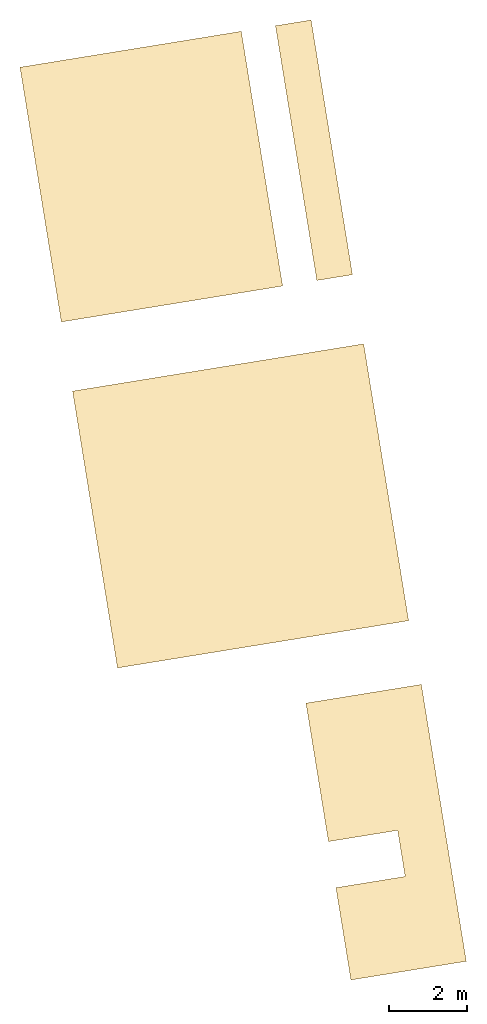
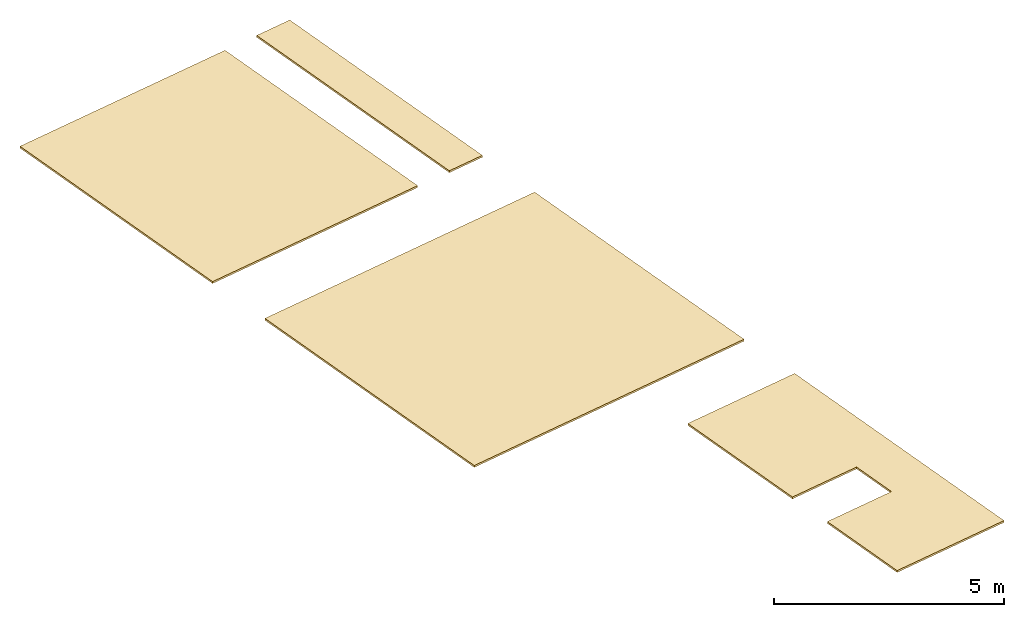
# One storey: 3 coverings.
"""IFC2X3 building model written with IfcOpenShell, lengths in millimetres."""

from ifc_helpers import new_model, entity, si_unit, converted_unit, derived_unit, direction, frame, origin, origin_with_axes, place, context, subcontext, project, spatial, polyline, outline, extrude, faceted_brep, material, layer, layer_set, layer_usage, type_object, element, save


model = new_model("IFC2X3")

# Units and contexts
plan_context = context("Plan", 3, precision=1e-05, world=origin_with_axes())
model_context = context("Model", 3, precision=0.01, world=origin(), true_north=direction((6.12323399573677e-17, 1.0)))
body_context = subcontext(model_context, "Body", "Model", "MODEL_VIEW")
ifc_project = project(units=[converted_unit("PLANEANGLEUNIT", "DEGREE", entity("IfcPositiveLengthMeasure", 0.0174532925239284), si_unit("PLANEANGLEUNIT", "RADIAN"), dimensions=[0, 0, 0, 0, 0, 0, 0]), si_unit("AREAUNIT", "SQUARE_METRE"), si_unit("LENGTHUNIT", "METRE", prefix="MILLI"), si_unit("MASSUNIT", "GRAM", prefix="KILO"), si_unit("POWERUNIT", "WATT"), si_unit("PRESSUREUNIT", "PASCAL", prefix="KILO"), si_unit("FORCEUNIT", "NEWTON", prefix="KILO"), si_unit("ELECTRICVOLTAGEUNIT", "VOLT"), si_unit("ELECTRICCURRENTUNIT", "AMPERE"), si_unit("THERMODYNAMICTEMPERATUREUNIT", "DEGREE_CELSIUS"), si_unit("TIMEUNIT", "SECOND"), si_unit("VOLUMEUNIT", "CUBIC_METRE"), derived_unit("LINEARVELOCITYUNIT", [(si_unit("LENGTHUNIT", "METRE"), 1), (si_unit("TIMEUNIT", "SECOND"), -1)]), derived_unit("VOLUMETRICFLOWRATEUNIT", [(si_unit("VOLUMEUNIT", "CUBIC_METRE"), 1), (si_unit("TIMEUNIT", "SECOND"), -1)]), derived_unit("THERMALTRANSMITTANCEUNIT", [(si_unit("POWERUNIT", "WATT"), 1), (si_unit("THERMODYNAMICTEMPERATUREUNIT", "KELVIN"), -1), (si_unit("AREAUNIT", "SQUARE_METRE"), -1)]), derived_unit("SOUNDPRESSUREUNIT", [(si_unit("PRESSUREUNIT", "PASCAL"), 1)])], contexts=[model_context, plan_context])

# Site, building, storey
site_placement = place(None, frame((-0.00071070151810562, 0.00438415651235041, 0.0), z_axis=(0.0, 0.0, 1.0), x_axis=(-0.160236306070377, 0.987078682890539, 0.0)))
site = spatial("IfcSite", under=ifc_project, at=site_placement, Name="Default", CompositionType="ELEMENT")
building_placement = place(site_placement, origin_with_axes())
building = spatial("IfcBuilding", under=site, at=building_placement, Name="TOO", CompositionType="ELEMENT")
storey_placement = place(building_placement, frame((0.0, 0.0, 55630.0), z_axis=(0.0, 0.0, 1.0), x_axis=(1.0, 0.0, 0.0)))
storey = spatial("IfcBuildingStorey", under=building, at=storey_placement, Name="Nivå E", CompositionType="ELEMENT", Elevation=55630.0)

# Coverings
ifc_material = material(Name="A256 - Akustiskeplater")
ifc_layer = layer(ifc_material, 50.0)
ifc_layer_set = layer_set([ifc_layer], Name="Compound Ceiling:A256 A01 Akustiske plater direkkemonert")
ifc_layer_usage = layer_usage(ifc_layer_set, "AXIS3", "NEGATIVE", 50.0)
covering_type = type_object("IfcCoveringType", Name="Compound Ceiling:A256 A01 Akustiske plater direkkemonert", PredefinedType="CEILING")
covering_1_placement = place(storey_placement, origin_with_axes())
element("IfcCovering", 1, at=covering_1_placement, inside=storey, type_object=covering_type, material=ifc_layer_usage, Name="Compound Ceiling:A256 A01 Akustiske plater direkkemonert", ObjectType="Compound Ceiling:A256 A01 Akustiske plater direkkemonert", PredefinedType="CEILING", context=body_context, shape_type="SweptSolid", body=[
    extrude(outline(polyline([(900.0, -1200.0), (3300.0, -1200.0), (3300.0, 1800.0), (-3900.0, 1800.0), (-3900.0, -1200.0), (-300.0, -1200.0), (-300.0, 600.0), (900.0, 600.0), (900.0, -1200.0)])), frame((766197.691122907, -506733.587558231, 2670.0), z_axis=(0.0, 0.0, 1.0), x_axis=(-1.0, 0.0, 0.0)), (0.0, 0.0, 1.0), 49.9999999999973),
])
covering_2_placement = place(storey_placement, origin_with_axes())
element("IfcCovering", 2, at=covering_2_placement, inside=storey, type_object=covering_type, Name="Compound Ceiling:A256 A01 Akustiske plater direkkemonert", ObjectType="Compound Ceiling:A256 A01 Akustiske plater direkkemonert", PredefinedType="CEILING", context=body_context, shape_type="Brep", body=[
    faceted_brep([(787388.155021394, -507547.480498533, 2699.9999999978), (787388.155021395, -507547.480498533, 2749.9999999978), (780764.191122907, -507547.480498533, 2749.9999999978), (780764.191122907, -507547.480498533, 2699.9999999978), (780764.191122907, -508473.587558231, 2749.9999999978), (780764.191122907, -508473.587558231, 2699.9999999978), (787388.155021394, -508473.587558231, 2749.9999999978), (787388.155021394, -508473.587558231, 2699.9999999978)], [[[0, 1, 2, 3]], [[3, 2, 4, 5]], [[6, 7, 5, 4]], [[7, 0, 3, 5]], [[1, 6, 4, 2]], [[7, 6, 1, 0]]], orient=[[False], [False], [False], [False], [False], [False]]),
    faceted_brep([(780764.191122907, -500902.480498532, 2699.9999999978), (780764.191122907, -500902.480498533, 2749.9999999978), (780764.191122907, -506657.480498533, 2749.9999999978), (780764.191122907, -506657.480498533, 2699.9999999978), (787388.155021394, -506657.480498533, 2749.9999999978), (787388.155021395, -506657.480498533, 2699.9999999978), (787388.155021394, -500902.480498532, 2699.9999999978), (787388.155021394, -500902.480498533, 2749.9999999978)], [[[0, 1, 2, 3]], [[4, 5, 3, 2]], [[5, 6, 0, 3]], [[1, 7, 4, 2]], [[6, 5, 4, 7]], [[7, 1, 0, 6]]], orient=[[False], [False], [False], [False], [False], [False]]),
])
covering_3_placement = place(storey_placement, origin_with_axes())
element("IfcCovering", 3, at=covering_3_placement, inside=storey, type_object=covering_type, Name="Compound Ceiling:A256 A01 Akustiske plater direkkemonert", ObjectType="Compound Ceiling:A256 A01 Akustiske plater direkkemonert", PredefinedType="CEILING", context=body_context, shape_type="Brep", body=[
    faceted_brep([(778965.191122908, -500902.480498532, 2749.9999999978), (778965.191122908, -500902.480498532, 2699.9999999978), (778965.191122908, -508473.587558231, 2699.9999999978), (778965.191122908, -508473.587558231, 2749.9999999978), (771765.191122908, -500902.480498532, 2699.9999999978), (771765.191122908, -500902.480498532, 2749.9999999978), (771765.191122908, -508473.587558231, 2749.9999999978), (771765.191122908, -508473.587558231, 2699.9999999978)], [[[0, 1, 2, 3]], [[4, 5, 6, 7]], [[7, 6, 3, 2]], [[1, 4, 7, 2]], [[5, 0, 3, 6]], [[5, 4, 1, 0]]], orient=[[False], [False], [False], [False], [False], [False]]),
])

save(model, "model.ifc")
